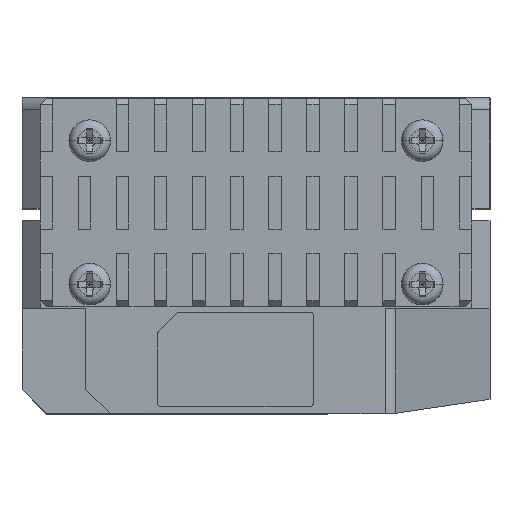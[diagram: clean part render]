
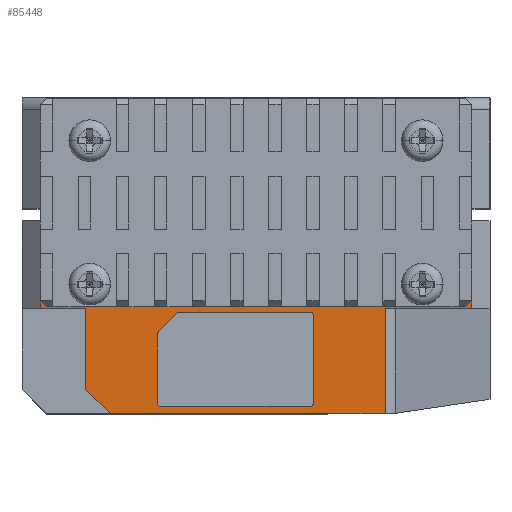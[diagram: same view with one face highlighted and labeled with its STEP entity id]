
A CAD part, top view. The second image highlights one B-rep face of the part: STEP entity #85448.
In plain terms, the highlighted planar face has unit normal (0, 0, 1).
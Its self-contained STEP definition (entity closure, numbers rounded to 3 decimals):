
#7791=DIRECTION('',(0.,-1.,0.));
#7792=VECTOR('',#7791,13.1);
#7793=CARTESIAN_POINT('',(-27.66,-15.25,38.));
#7794=LINE('',#7793,#7792);
#7795=CARTESIAN_POINT('',(-15.5,-30.65,38.));
#7796=DIRECTION('',(0.,0.,1.));
#7797=DIRECTION('',(-1.,0.,0.));
#7798=AXIS2_PLACEMENT_3D('',#7795,#7796,#7797);
#7800=CARTESIAN_POINT('',(8.8,-30.65,38.));
#7801=DIRECTION('',(0.,0.,1.));
#7802=DIRECTION('',(0.,-1.,0.));
#7803=AXIS2_PLACEMENT_3D('',#7800,#7801,#7802);
#7805=CARTESIAN_POINT('',(8.8,-16.35,38.));
#7806=DIRECTION('',(0.,0.,1.));
#7807=DIRECTION('',(1.,0.,0.));
#7808=AXIS2_PLACEMENT_3D('',#7805,#7806,#7807);
#7810=CARTESIAN_POINT('',(-12.48,-16.35,38.));
#7811=DIRECTION('',(0.,0.,1.));
#7812=DIRECTION('',(0.,1.,0.));
#7813=AXIS2_PLACEMENT_3D('',#7810,#7811,#7812);
#7815=DIRECTION('',(-0.707,-0.707,0.));
#7816=VECTOR('',#7815,4.271);
#7817=CARTESIAN_POINT('',(-12.834,-15.996,38.));
#7818=LINE('',#7817,#7816);
#7819=CARTESIAN_POINT('',(-15.5,-19.37,38.));
#7820=DIRECTION('',(0.,0.,1.));
#7821=DIRECTION('',(-0.707,0.707,0.));
#7822=AXIS2_PLACEMENT_3D('',#7819,#7820,#7821);
#7824=DIRECTION('',(-0.707,0.707,0.));
#7825=VECTOR('',#7824,1.414);
#7826=CARTESIAN_POINT('',(-34.,-15.,38.));
#7827=LINE('',#7826,#7825);
#7828=DIRECTION('',(1.,0.,0.));
#7829=VECTOR('',#7828,68.);
#7830=CARTESIAN_POINT('',(-34.,-15.,38.));
#7831=LINE('',#7830,#7829);
#7832=DIRECTION('',(-0.707,-0.707,0.));
#7833=VECTOR('',#7832,1.414);
#7834=CARTESIAN_POINT('',(35.,-14.,38.));
#7835=LINE('',#7834,#7833);
#7836=DIRECTION('',(-1.,0.,0.));
#7837=VECTOR('',#7836,14.04);
#7838=CARTESIAN_POINT('',(35.,-15.25,38.));
#7839=LINE('',#7838,#7837);
#7840=DIRECTION('',(0.,-1.,0.));
#7841=VECTOR('',#7840,17.1);
#7842=CARTESIAN_POINT('',(20.96,-15.25,38.));
#7843=LINE('',#7842,#7841);
#7844=DIRECTION('',(-1.,0.,0.));
#7845=VECTOR('',#7844,44.62);
#7846=CARTESIAN_POINT('',(20.96,-32.35,38.));
#7847=LINE('',#7846,#7845);
#7848=DIRECTION('',(-0.707,0.707,0.));
#7849=VECTOR('',#7848,5.657);
#7850=CARTESIAN_POINT('',(-23.66,-32.35,38.));
#7851=LINE('',#7850,#7849);
#7852=DIRECTION('',(-1.,0.,0.));
#7853=VECTOR('',#7852,7.34);
#7854=CARTESIAN_POINT('',(-27.66,-15.25,38.));
#7855=LINE('',#7854,#7853);
#7856=DIRECTION('',(0.,1.,0.));
#7857=VECTOR('',#7856,11.28);
#7858=CARTESIAN_POINT('',(-16.,-30.65,38.));
#7859=LINE('',#7858,#7857);
#7876=DIRECTION('',(1.,0.,0.));
#7877=VECTOR('',#7876,21.28);
#7878=CARTESIAN_POINT('',(-12.48,-15.85,38.));
#7879=LINE('',#7878,#7877);
#7888=DIRECTION('',(0.,-1.,0.));
#7889=VECTOR('',#7888,14.3);
#7890=CARTESIAN_POINT('',(9.3,-16.35,38.));
#7891=LINE('',#7890,#7889);
#7900=DIRECTION('',(-1.,0.,0.));
#7901=VECTOR('',#7900,24.3);
#7902=CARTESIAN_POINT('',(8.8,-31.15,38.));
#7903=LINE('',#7902,#7901);
#7997=DIRECTION('',(0.,-1.,0.));
#7998=VECTOR('',#7997,1.25);
#7999=CARTESIAN_POINT('',(-35.,-14.,38.));
#8000=LINE('',#7999,#7998);
#8781=DIRECTION('',(0.,1.,0.));
#8782=VECTOR('',#8781,1.25);
#8783=CARTESIAN_POINT('',(35.,-15.25,38.));
#8784=LINE('',#8783,#8782);
#75088=CARTESIAN_POINT('',(35.,-15.25,38.));
#75089=CARTESIAN_POINT('',(20.96,-15.25,38.));
#75090=VERTEX_POINT('',#75088);
#75091=VERTEX_POINT('',#75089);
#75208=CARTESIAN_POINT('',(-35.,-15.25,38.));
#75209=VERTEX_POINT('',#75208);
#75210=CARTESIAN_POINT('',(-27.66,-15.25,38.));
#75211=VERTEX_POINT('',#75210);
#75320=CARTESIAN_POINT('',(-23.66,-32.35,38.));
#75322=VERTEX_POINT('',#75320);
#75324=CARTESIAN_POINT('',(20.96,-32.35,38.));
#75325=VERTEX_POINT('',#75324);
#75463=CARTESIAN_POINT('',(-27.66,-28.35,38.));
#75464=VERTEX_POINT('',#75463);
#75465=CARTESIAN_POINT('',(-16.,-30.65,38.));
#75466=CARTESIAN_POINT('',(-15.5,-31.15,38.));
#75467=VERTEX_POINT('',#75465);
#75468=VERTEX_POINT('',#75466);
#75469=CARTESIAN_POINT('',(8.8,-31.15,38.));
#75470=VERTEX_POINT('',#75469);
#75471=CARTESIAN_POINT('',(9.3,-30.65,38.));
#75472=VERTEX_POINT('',#75471);
#75473=CARTESIAN_POINT('',(9.3,-16.35,38.));
#75474=VERTEX_POINT('',#75473);
#75475=CARTESIAN_POINT('',(8.8,-15.85,38.));
#75476=VERTEX_POINT('',#75475);
#75477=CARTESIAN_POINT('',(-12.48,-15.85,38.));
#75478=VERTEX_POINT('',#75477);
#75479=CARTESIAN_POINT('',(-12.834,-15.996,38.));
#75480=VERTEX_POINT('',#75479);
#75481=CARTESIAN_POINT('',(-15.854,-19.016,38.));
#75482=VERTEX_POINT('',#75481);
#75483=CARTESIAN_POINT('',(-16.,-19.37,38.));
#75484=VERTEX_POINT('',#75483);
#81903=CARTESIAN_POINT('',(-35.,-14.,38.));
#81904=VERTEX_POINT('',#81903);
#81905=CARTESIAN_POINT('',(-34.,-15.,38.));
#81906=VERTEX_POINT('',#81905);
#81907=CARTESIAN_POINT('',(34.,-15.,38.));
#81908=VERTEX_POINT('',#81907);
#81909=CARTESIAN_POINT('',(35.,-14.,38.));
#81910=VERTEX_POINT('',#81909);
#85400=CARTESIAN_POINT('',(0.,-16.675,38.));
#85401=DIRECTION('',(0.,0.,1.));
#85402=DIRECTION('',(-1.,0.,0.));
#85403=AXIS2_PLACEMENT_3D('',#85400,#85401,#85402);
#85404=PLANE('',#85403);
#85406=ORIENTED_EDGE('',*,*,#85405,.F.);
#85408=ORIENTED_EDGE('',*,*,#85407,.T.);
#85410=ORIENTED_EDGE('',*,*,#85409,.F.);
#85412=ORIENTED_EDGE('',*,*,#85411,.F.);
#85414=ORIENTED_EDGE('',*,*,#85413,.T.);
#85416=ORIENTED_EDGE('',*,*,#85415,.T.);
#85418=ORIENTED_EDGE('',*,*,#85417,.T.);
#85419=ORIENTED_EDGE('',*,*,#85380,.T.);
#85420=ORIENTED_EDGE('',*,*,#85395,.F.);
#85421=ORIENTED_EDGE('',*,*,#83828,.T.);
#85423=ORIENTED_EDGE('',*,*,#85422,.F.);
#85424=EDGE_LOOP('',(#85406,#85408,#85410,#85412,#85414,#85416,#85418,#85419,
#85420,#85421,#85423));
#85425=FACE_OUTER_BOUND('',#85424,.F.);
#85427=ORIENTED_EDGE('',*,*,#85426,.T.);
#85429=ORIENTED_EDGE('',*,*,#85428,.F.);
#85431=ORIENTED_EDGE('',*,*,#85430,.T.);
#85433=ORIENTED_EDGE('',*,*,#85432,.F.);
#85435=ORIENTED_EDGE('',*,*,#85434,.T.);
#85437=ORIENTED_EDGE('',*,*,#85436,.F.);
#85439=ORIENTED_EDGE('',*,*,#85438,.T.);
#85441=ORIENTED_EDGE('',*,*,#85440,.T.);
#85443=ORIENTED_EDGE('',*,*,#85442,.T.);
#85445=ORIENTED_EDGE('',*,*,#85444,.F.);
#85446=EDGE_LOOP('',(#85427,#85429,#85431,#85433,#85435,#85437,#85439,#85441,
#85443,#85445));
#85447=FACE_BOUND('',#85446,.F.);
#85448=ADVANCED_FACE('',(#85425,#85447),#85404,.T.);
#7799=CIRCLE('',#7798,0.5);
#7804=CIRCLE('',#7803,0.5);
#7809=CIRCLE('',#7808,0.5);
#7814=CIRCLE('',#7813,0.5);
#7823=CIRCLE('',#7822,0.5);
#83828=EDGE_CURVE('',#75211,#75209,#7855,.T.);
#85380=EDGE_CURVE('',#75322,#75464,#7851,.T.);
#85395=EDGE_CURVE('',#75211,#75464,#7794,.T.);
#85405=EDGE_CURVE('',#81906,#81904,#7827,.T.);
#85407=EDGE_CURVE('',#81906,#81908,#7831,.T.);
#85409=EDGE_CURVE('',#81910,#81908,#7835,.T.);
#85411=EDGE_CURVE('',#75090,#81910,#8784,.T.);
#85413=EDGE_CURVE('',#75090,#75091,#7839,.T.);
#85415=EDGE_CURVE('',#75091,#75325,#7843,.T.);
#85417=EDGE_CURVE('',#75325,#75322,#7847,.T.);
#85422=EDGE_CURVE('',#81904,#75209,#8000,.T.);
#85426=EDGE_CURVE('',#75467,#75468,#7799,.T.);
#85428=EDGE_CURVE('',#75470,#75468,#7903,.T.);
#85430=EDGE_CURVE('',#75470,#75472,#7804,.T.);
#85432=EDGE_CURVE('',#75474,#75472,#7891,.T.);
#85434=EDGE_CURVE('',#75474,#75476,#7809,.T.);
#85436=EDGE_CURVE('',#75478,#75476,#7879,.T.);
#85438=EDGE_CURVE('',#75478,#75480,#7814,.T.);
#85440=EDGE_CURVE('',#75480,#75482,#7818,.T.);
#85442=EDGE_CURVE('',#75482,#75484,#7823,.T.);
#85444=EDGE_CURVE('',#75467,#75484,#7859,.T.);
